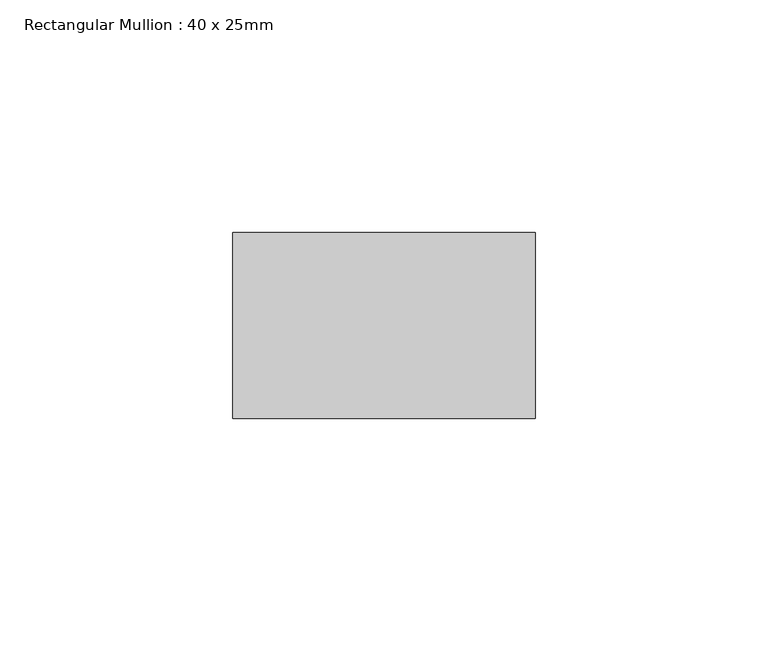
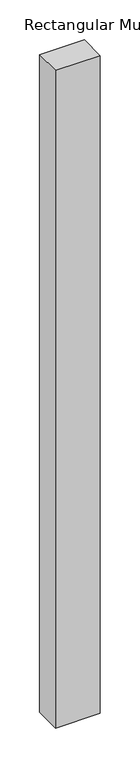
"""IFC4 building model written with IfcOpenShell, lengths in millimetres: member geometry, Rectangular Mullion : 40 x 25mm."""

import ifcopenshell
import ifcopenshell.guid

model = None  # the IFC model being written
_history = None  # IfcOwnerHistory: only IFC2X3 demands one
_inside = {}  # id of a spatial element -> (the spatial element, [elements in it])
_under = {}  # id of a project, library or spatial element -> (it, [spatial elements below it])
_declared = {}  # id of a project -> (the project, [libraries it declares])
_typed = {}  # id of a type object -> (the type object, [elements of that type])
_made_of = {}  # id of a material, layer set ... -> (it, [elements and type objects made of it])


def new_model(schema):
    """Start an empty IFC model of exactly this schema.

    Asked for "IFC4X3", IfcOpenShell would pick the latest addendum, in which some entities
    have other attributes; the version numbers below select the first issue.
    IFC2X3 requires an IfcOwnerHistory on every rooted entity: one is made here for all.
    """
    global model, _history
    if schema == "IFC4X3":
        model = ifcopenshell.file(schema_version=(4, 3, 0, 0))
    else:
        model = ifcopenshell.file(schema=schema)
    _inside.clear()
    _under.clear()
    _declared.clear()
    _typed.clear()
    _made_of.clear()
    _history = None
    if model.schema == "IFC2X3":
        org = make("IfcOrganization", Name="unknown")
        user = make(
            "IfcPersonAndOrganization",
            ThePerson=make("IfcPerson", FamilyName="unknown"),
            TheOrganization=org,
        )
        app = make(
            "IfcApplication",
            ApplicationDeveloper=org,
            Version="unknown",
            ApplicationFullName="unknown",
            ApplicationIdentifier="unknown",
        )
        _history = make(
            "IfcOwnerHistory",
            OwningUser=user,
            OwningApplication=app,
            ChangeAction="ADDED",
            CreationDate=0,
        )
    return model


def make(cls, **values):
    """One entity of the class cls with the attributes given. An attribute that is None is left unset."""
    return model.create_entity(
        cls, **{name: value for name, value in values.items() if value is not None}
    )


def rooted(cls, **values):
    """An entity with a GlobalId (a new one), such as an element, a storey or a relation."""
    return make(cls, GlobalId=ifcopenshell.guid.new(), OwnerHistory=_history, **values)


def si_unit(unit_type, name, prefix=None):
    """IfcSIUnit, for example si_unit("LENGTHUNIT", "METRE", prefix="MILLI")."""
    return make("IfcSIUnit", UnitType=unit_type, Prefix=prefix, Name=name)


def assignment(units):
    """IfcUnitAssignment: the units of a project."""
    return None if units is None else make("IfcUnitAssignment", Units=units)


def point(xyz):
    """IfcCartesianPoint."""
    return None if xyz is None else make("IfcCartesianPoint", Coordinates=xyz)


def direction(xyz):
    """IfcDirection."""
    return None if xyz is None else make("IfcDirection", DirectionRatios=xyz)


def frame(location, z_axis=None, x_axis=None):
    """IfcAxis2Placement3D, a coordinate frame: its origin and axes. An axis left out is left unset."""
    return make(
        "IfcAxis2Placement3D",
        Location=point(location),
        Axis=direction(z_axis),
        RefDirection=direction(x_axis),
    )


def origin():
    """The frame at (0, 0, 0) with its axes left unset."""
    return frame((0.0, 0.0, 0.0))


def place(relative_to, where):
    """IfcLocalPlacement: puts the frame where relative to a parent placement (None: the world)."""
    return make(
        "IfcLocalPlacement", PlacementRelTo=relative_to, RelativePlacement=where
    )


def context(
    kind, dimensions, precision=None, world=None, true_north=None, identifier=None
):
    """IfcGeometricRepresentationContext, for example the 3D "Model" context."""
    return make(
        "IfcGeometricRepresentationContext",
        ContextIdentifier=identifier,
        ContextType=kind,
        CoordinateSpaceDimension=dimensions,
        Precision=precision,
        WorldCoordinateSystem=world,
        TrueNorth=true_north,
    )


def project(units=None, contexts=None):
    """IfcProject with its units and contexts."""
    return rooted(
        "IfcProject",
        Name="project",
        RepresentationContexts=contexts,
        UnitsInContext=assignment(units),
    )


def spatial(cls, under=None, at=None, **own):
    """A site, building, storey or space (cls), placed at a placement, below another one or the project."""
    s = rooted(cls, ObjectPlacement=at, **own)
    if under is not None:
        _under.setdefault(under.id(), (under, []))[1].append(s)
    return s


def polyline(points):
    """IfcPolyline through the points."""
    return make("IfcPolyline", Points=[point(p) for p in points])


def outline(outer, holes=None, kind="AREA"):
    """IfcArbitraryClosedProfileDef: a profile drawn as a closed curve; with holes, ...WithVoids."""
    if holes is None:
        return make("IfcArbitraryClosedProfileDef", ProfileType=kind, OuterCurve=outer)
    return make(
        "IfcArbitraryProfileDefWithVoids",
        ProfileType=kind,
        OuterCurve=outer,
        InnerCurves=holes,
    )


def extrude(swept, where, along, depth):
    """IfcExtrudedAreaSolid: the profile swept, set in the frame where, extruded along a direction by depth."""
    return make(
        "IfcExtrudedAreaSolid",
        SweptArea=swept,
        Position=where,
        ExtrudedDirection=direction(along),
        Depth=depth,
    )


def shape(context_of_items, identifier, shape_type, items):
    """IfcShapeRepresentation: the items that make up one representation, for example the "Body"."""
    return make(
        "IfcShapeRepresentation",
        ContextOfItems=context_of_items,
        RepresentationIdentifier=identifier,
        RepresentationType=shape_type,
        Items=items,
    )


def source(mapping_origin, context_of_items, identifier, shape_type, items):
    """IfcRepresentationMap: a shape defined once, which mapped items show again and again."""
    return make(
        "IfcRepresentationMap",
        MappingOrigin=mapping_origin,
        MappedRepresentation=shape(context_of_items, identifier, shape_type, items),
    )


def transform(
    local_origin,
    x_axis=None,
    y_axis=None,
    z_axis=None,
    scale=None,
    scale2=None,
    scale3=None,
    uniform=True,
):
    """IfcCartesianTransformationOperator3D, or its non-uniform kind. x_axis, y_axis, z_axis: its Axis1, 2, 3."""
    if uniform:
        return make(
            "IfcCartesianTransformationOperator3D",
            Axis1=direction(x_axis),
            Axis2=direction(y_axis),
            LocalOrigin=point(local_origin),
            Scale=scale,
            Axis3=direction(z_axis),
        )
    return make(
        "IfcCartesianTransformationOperator3DnonUniform",
        Axis1=direction(x_axis),
        Axis2=direction(y_axis),
        LocalOrigin=point(local_origin),
        Scale=scale,
        Axis3=direction(z_axis),
        Scale2=scale2,
        Scale3=scale3,
    )


def mapped(mapping_source, mapping_target):
    """IfcMappedItem: shows the shape of a source again, moved by a transform."""
    return make(
        "IfcMappedItem", MappingSource=mapping_source, MappingTarget=mapping_target
    )


def made_of(thing, what):
    """Note that an element or type object is made of a material, layer set ...; save() writes the relation."""
    if what is not None:
        _made_of.setdefault(what.id(), (what, []))[1].append(thing)
    return thing


def element(
    cls,
    number,
    at=None,
    inside=None,
    cuts=None,
    type_object=None,
    material=None,
    context=None,
    identifier="Body",
    shape_type=None,
    held_by="IfcProductDefinitionShape",
    body=None,
    shapes=None,
    **own,
):
    """One element of the class cls, such as IfcWall. Its Tag is "e" and its number.

    at: its placement. inside: the storey or other place that contains it. cuts: it is an
    opening in that element (IfcRelVoidsElement). A single representation is given by context,
    identifier, shape_type and body (its items); several are given by shapes. held_by: the class
    of the entity that holds the representations. save() writes the other relations.
    """
    e = rooted(cls, Tag="e%d" % number, ObjectPlacement=at, **own)
    if body is not None:
        shapes = [shape(context, identifier, shape_type, body)]
    if shapes is not None:
        e.Representation = make(held_by, Representations=shapes)
    if inside is not None:
        _inside.setdefault(inside.id(), (inside, []))[1].append(e)
    if cuts is not None:
        rooted(
            "IfcRelVoidsElement", RelatingBuildingElement=cuts, RelatedOpeningElement=e
        )
    if type_object is not None:
        _typed.setdefault(type_object.id(), (type_object, []))[1].append(e)
    return made_of(e, material)


def aggregate(whole, parts):
    """IfcRelAggregates: a whole, such as a stair, and the parts it consists of."""
    return rooted("IfcRelAggregates", RelatingObject=whole, RelatedObjects=parts)


def save(model, path):
    """Write the relations noted so far, then the file.

    IfcRelAggregates (storeys below a building ...), IfcRelContainedInSpatialStructure (elements
    in a storey), IfcRelDefinesByType, IfcRelAssociatesMaterial and IfcRelDeclares: one each for
    every whole, place, type object, material and project.
    """
    for whole, parts in _under.values():
        aggregate(whole, parts)
    for where, things in _inside.values():
        rooted(
            "IfcRelContainedInSpatialStructure",
            RelatedElements=things,
            RelatingStructure=where,
        )
    for kind, things in _typed.values():
        rooted("IfcRelDefinesByType", RelatedObjects=things, RelatingType=kind)
    for what, things in _made_of.values():
        rooted("IfcRelAssociatesMaterial", RelatedObjects=things, RelatingMaterial=what)
    for by, libraries in _declared.values():
        rooted("IfcRelDeclares", RelatingContext=by, RelatedDefinitions=libraries)
    model.write(path)


def rectangular_mullion_40_x_25mm_0d52d6ba(model_context):
    return source(origin(), model_context, "Body", "SweptSolid", [
        extrude(outline(polyline([(40.0, -20.0), (40.0, -60.0), (-25.0, -60.0), (-25.0, -20.0), (40.0, -20.0)])), frame((0.0, 0.0, -1010.0), z_axis=(0.0, 0.0, 1.0), x_axis=(1.0, 0.0, 0.0)), (0.0, 0.0, 1.0), 1010.0),
    ])


if __name__ == "__main__":
    model = new_model("IFC4")
    model_context = context("Model", 3, world=origin())
    ifc_project = project(units=[si_unit("LENGTHUNIT", "METRE", prefix="MILLI")], contexts=[model_context])
    site = spatial("IfcSite", under=ifc_project)
    building = spatial("IfcBuilding", under=site)
    placement = place(None, origin())
    rectangular_mullion_40_x_25mm_shape = rectangular_mullion_40_x_25mm_0d52d6ba(model_context)
    element("IfcMember", 1, ObjectType="Rectangular Mullion : 40 x 25mm", at=placement, inside=building, context=model_context, shape_type="MappedRepresentation", body=[
        mapped(rectangular_mullion_40_x_25mm_shape, transform((0.0, 0.0, 0.0), x_axis=(1.0, 0.0, 0.0), y_axis=(0.0, 1.0, 0.0), z_axis=(0.0, 0.0, 1.0))),
    ])
    save(model, "model.ifc")
